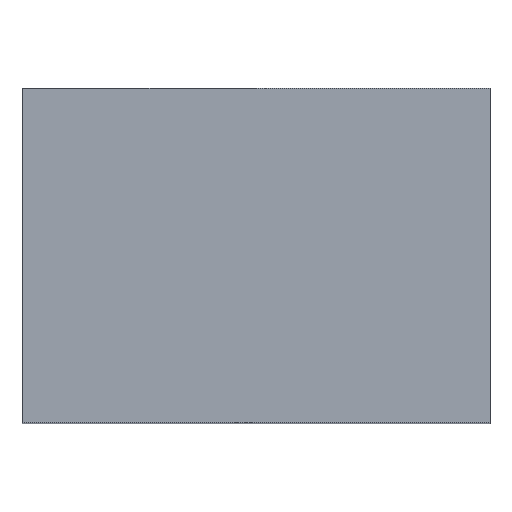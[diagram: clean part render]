
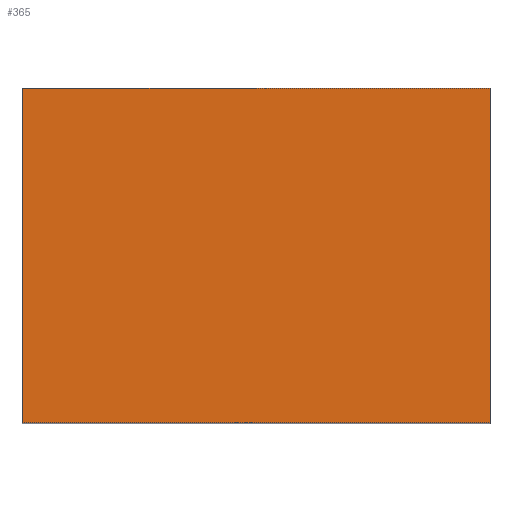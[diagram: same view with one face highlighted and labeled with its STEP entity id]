
A CAD part, top view. The second image highlights one B-rep face of the part: STEP entity #365.
In plain terms, the highlighted planar face has unit normal (0, 0, 1).
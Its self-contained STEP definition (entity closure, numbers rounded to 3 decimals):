
#51 = VERTEX_POINT('',#52);
#52 = CARTESIAN_POINT('',(-5.5,3.125,22.1));
#59 = PLANE('',#60);
#60 = AXIS2_PLACEMENT_3D('',#61,#62,#63);
#61 = CARTESIAN_POINT('',(-5.5,3.125,0.));
#62 = DIRECTION('',(0.,1.,0.));
#63 = DIRECTION('',(1.,0.,0.));
#71 = PLANE('',#72);
#72 = AXIS2_PLACEMENT_3D('',#73,#74,#75);
#73 = CARTESIAN_POINT('',(-5.5,-11.875,0.));
#74 = DIRECTION('',(-1.,0.,0.));
#75 = DIRECTION('',(0.,1.,0.));
#83 = EDGE_CURVE('',#51,#84,#86,.T.);
#84 = VERTEX_POINT('',#85);
#85 = CARTESIAN_POINT('',(15.5,3.125,22.1));
#86 = SURFACE_CURVE('',#87,(#91,#98),.PCURVE_S1.);
#87 = LINE('',#88,#89);
#88 = CARTESIAN_POINT('',(-5.5,3.125,22.1));
#89 = VECTOR('',#90,1.);
#90 = DIRECTION('',(1.,0.,0.));
#91 = PCURVE('',#59,#92);
#92 = DEFINITIONAL_REPRESENTATION('',(#93),#97);
#93 = LINE('',#94,#95);
#94 = CARTESIAN_POINT('',(0.,-22.1));
#95 = VECTOR('',#96,1.);
#96 = DIRECTION('',(1.,0.));
#97 = ( GEOMETRIC_REPRESENTATION_CONTEXT(2) 
PARAMETRIC_REPRESENTATION_CONTEXT() REPRESENTATION_CONTEXT('2D SPACE',''
  ) );
#98 = PCURVE('',#99,#104);
#99 = PLANE('',#100);
#100 = AXIS2_PLACEMENT_3D('',#101,#102,#103);
#101 = CARTESIAN_POINT('',(5.,-4.375,22.1));
#102 = DIRECTION('',(-0.,-0.,-1.));
#103 = DIRECTION('',(-1.,0.,0.));
#104 = DEFINITIONAL_REPRESENTATION('',(#105),#109);
#105 = LINE('',#106,#107);
#106 = CARTESIAN_POINT('',(10.5,7.5));
#107 = VECTOR('',#108,1.);
#108 = DIRECTION('',(-1.,0.));
#109 = ( GEOMETRIC_REPRESENTATION_CONTEXT(2) 
PARAMETRIC_REPRESENTATION_CONTEXT() REPRESENTATION_CONTEXT('2D SPACE',''
  ) );
#127 = PLANE('',#128);
#128 = AXIS2_PLACEMENT_3D('',#129,#130,#131);
#129 = CARTESIAN_POINT('',(15.5,3.125,0.));
#130 = DIRECTION('',(1.,0.,-0.));
#131 = DIRECTION('',(0.,-1.,0.));
#169 = EDGE_CURVE('',#84,#170,#172,.T.);
#170 = VERTEX_POINT('',#171);
#171 = CARTESIAN_POINT('',(15.5,-11.875,22.1));
#172 = SURFACE_CURVE('',#173,(#177,#184),.PCURVE_S1.);
#173 = LINE('',#174,#175);
#174 = CARTESIAN_POINT('',(15.5,3.125,22.1));
#175 = VECTOR('',#176,1.);
#176 = DIRECTION('',(0.,-1.,0.));
#177 = PCURVE('',#127,#178);
#178 = DEFINITIONAL_REPRESENTATION('',(#179),#183);
#179 = LINE('',#180,#181);
#180 = CARTESIAN_POINT('',(0.,-22.1));
#181 = VECTOR('',#182,1.);
#182 = DIRECTION('',(1.,0.));
#183 = ( GEOMETRIC_REPRESENTATION_CONTEXT(2) 
PARAMETRIC_REPRESENTATION_CONTEXT() REPRESENTATION_CONTEXT('2D SPACE',''
  ) );
#184 = PCURVE('',#99,#185);
#185 = DEFINITIONAL_REPRESENTATION('',(#186),#190);
#186 = LINE('',#187,#188);
#187 = CARTESIAN_POINT('',(-10.5,7.5));
#188 = VECTOR('',#189,1.);
#189 = DIRECTION('',(0.,-1.));
#190 = ( GEOMETRIC_REPRESENTATION_CONTEXT(2) 
PARAMETRIC_REPRESENTATION_CONTEXT() REPRESENTATION_CONTEXT('2D SPACE',''
  ) );
#208 = PLANE('',#209);
#209 = AXIS2_PLACEMENT_3D('',#210,#211,#212);
#210 = CARTESIAN_POINT('',(15.5,-11.875,0.));
#211 = DIRECTION('',(0.,-1.,0.));
#212 = DIRECTION('',(-1.,0.,0.));
#245 = EDGE_CURVE('',#170,#246,#248,.T.);
#246 = VERTEX_POINT('',#247);
#247 = CARTESIAN_POINT('',(-5.5,-11.875,22.1));
#248 = SURFACE_CURVE('',#249,(#253,#260),.PCURVE_S1.);
#249 = LINE('',#250,#251);
#250 = CARTESIAN_POINT('',(15.5,-11.875,22.1));
#251 = VECTOR('',#252,1.);
#252 = DIRECTION('',(-1.,0.,0.));
#253 = PCURVE('',#208,#254);
#254 = DEFINITIONAL_REPRESENTATION('',(#255),#259);
#255 = LINE('',#256,#257);
#256 = CARTESIAN_POINT('',(0.,-22.1));
#257 = VECTOR('',#258,1.);
#258 = DIRECTION('',(1.,0.));
#259 = ( GEOMETRIC_REPRESENTATION_CONTEXT(2) 
PARAMETRIC_REPRESENTATION_CONTEXT() REPRESENTATION_CONTEXT('2D SPACE',''
  ) );
#260 = PCURVE('',#99,#261);
#261 = DEFINITIONAL_REPRESENTATION('',(#262),#266);
#262 = LINE('',#263,#264);
#263 = CARTESIAN_POINT('',(-10.5,-7.5));
#264 = VECTOR('',#265,1.);
#265 = DIRECTION('',(1.,0.));
#266 = ( GEOMETRIC_REPRESENTATION_CONTEXT(2) 
PARAMETRIC_REPRESENTATION_CONTEXT() REPRESENTATION_CONTEXT('2D SPACE',''
  ) );
#316 = EDGE_CURVE('',#246,#51,#317,.T.);
#317 = SURFACE_CURVE('',#318,(#322,#329),.PCURVE_S1.);
#318 = LINE('',#319,#320);
#319 = CARTESIAN_POINT('',(-5.5,-11.875,22.1));
#320 = VECTOR('',#321,1.);
#321 = DIRECTION('',(0.,1.,0.));
#322 = PCURVE('',#71,#323);
#323 = DEFINITIONAL_REPRESENTATION('',(#324),#328);
#324 = LINE('',#325,#326);
#325 = CARTESIAN_POINT('',(0.,-22.1));
#326 = VECTOR('',#327,1.);
#327 = DIRECTION('',(1.,0.));
#328 = ( GEOMETRIC_REPRESENTATION_CONTEXT(2) 
PARAMETRIC_REPRESENTATION_CONTEXT() REPRESENTATION_CONTEXT('2D SPACE',''
  ) );
#329 = PCURVE('',#99,#330);
#330 = DEFINITIONAL_REPRESENTATION('',(#331),#335);
#331 = LINE('',#332,#333);
#332 = CARTESIAN_POINT('',(10.5,-7.5));
#333 = VECTOR('',#334,1.);
#334 = DIRECTION('',(0.,1.));
#335 = ( GEOMETRIC_REPRESENTATION_CONTEXT(2) 
PARAMETRIC_REPRESENTATION_CONTEXT() REPRESENTATION_CONTEXT('2D SPACE',''
  ) );
#365 = ADVANCED_FACE('',(#366),#99,.F.);
#366 = FACE_BOUND('',#367,.F.);
#367 = EDGE_LOOP('',(#368,#369,#370,#371));
#368 = ORIENTED_EDGE('',*,*,#83,.T.);
#369 = ORIENTED_EDGE('',*,*,#169,.T.);
#370 = ORIENTED_EDGE('',*,*,#245,.T.);
#371 = ORIENTED_EDGE('',*,*,#316,.T.);
